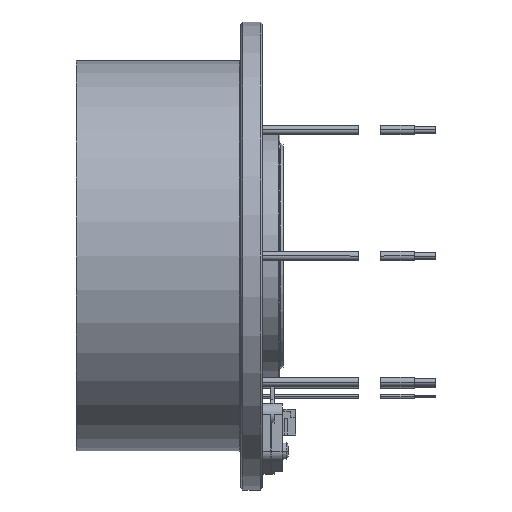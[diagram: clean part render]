
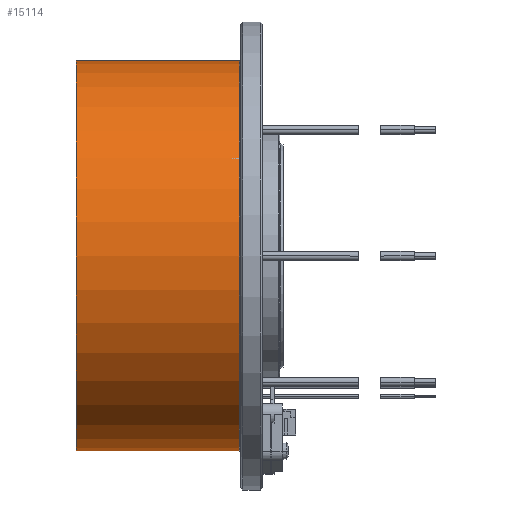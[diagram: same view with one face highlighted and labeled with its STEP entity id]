
A CAD part, front view. The second image highlights one B-rep face of the part: STEP entity #15114.
In plain terms, the highlighted cylindrical face has radius 45 mm (diameter 90 mm), a partial arc.
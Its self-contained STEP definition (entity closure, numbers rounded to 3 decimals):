
#3949=CARTESIAN_POINT('',(-5.3,0.,0.));
#3950=DIRECTION('',(-1.,0.,0.));
#3951=DIRECTION('',(0.,0.,-1.));
#3952=AXIS2_PLACEMENT_3D('',#3949,#3950,#3951);
#3965=DIRECTION('',(-1.,0.,0.));
#3966=VECTOR('',#3965,37.7);
#3967=CARTESIAN_POINT('',(-5.3,0.,-45.));
#3968=LINE('',#3967,#3966);
#3972=DIRECTION('',(-1.,0.,0.));
#3973=VECTOR('',#3972,37.7);
#3974=CARTESIAN_POINT('',(-5.3,0.,45.));
#3975=LINE('',#3974,#3973);
#3979=CARTESIAN_POINT('',(-43.,0.,0.));
#3980=DIRECTION('',(1.,0.,0.));
#3981=DIRECTION('',(0.,0.,1.));
#3982=AXIS2_PLACEMENT_3D('',#3979,#3980,#3981);
#11379=CARTESIAN_POINT('',(-5.3,0.,45.));
#11380=VERTEX_POINT('',#11379);
#11381=CARTESIAN_POINT('',(-5.3,0.,-45.));
#11382=VERTEX_POINT('',#11381);
#11383=CARTESIAN_POINT('',(-43.,0.,-45.));
#11384=VERTEX_POINT('',#11383);
#11385=CARTESIAN_POINT('',(-43.,0.,45.));
#11386=VERTEX_POINT('',#11385);
#15100=CARTESIAN_POINT('',(-45.15,0.,0.));
#15101=DIRECTION('',(1.,0.,0.));
#15102=DIRECTION('',(0.,0.,-1.));
#15103=AXIS2_PLACEMENT_3D('',#15100,#15101,#15102);
#15104=CYLINDRICAL_SURFACE('',#15103,45.);
#15106=ORIENTED_EDGE('',*,*,#15105,.T.);
#15108=ORIENTED_EDGE('',*,*,#15107,.F.);
#15110=ORIENTED_EDGE('',*,*,#15109,.F.);
#15111=ORIENTED_EDGE('',*,*,#15094,.F.);
#15112=EDGE_LOOP('',(#15106,#15108,#15110,#15111));
#15113=FACE_OUTER_BOUND('',#15112,.F.);
#15114=ADVANCED_FACE('',(#15113),#15104,.T.);
#3953=CIRCLE('',#3952,45.);
#3983=CIRCLE('',#3982,45.);
#15094=EDGE_CURVE('',#11382,#11380,#3953,.T.);
#15105=EDGE_CURVE('',#11382,#11384,#3968,.T.);
#15107=EDGE_CURVE('',#11386,#11384,#3983,.T.);
#15109=EDGE_CURVE('',#11380,#11386,#3975,.T.);
